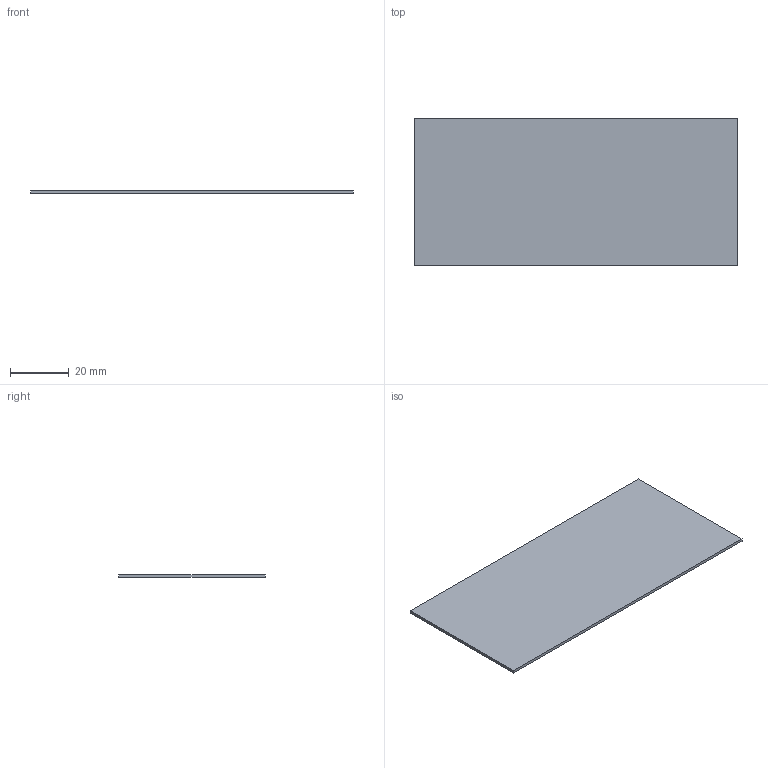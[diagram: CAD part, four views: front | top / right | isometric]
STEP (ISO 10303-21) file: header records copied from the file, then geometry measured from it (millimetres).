
FILE_DESCRIPTION (( 'STEP AP214' ), '1' );
FILE_NAME ('Ej03-v01.STEP', '2012-02-01T15:05:14', ( '' ), ( '' ), 'SwSTEP 2.0', 'SolidWorks 2011', '' );
FILE_SCHEMA (( 'AUTOMOTIVE_DESIGN' ));
Length unit declared in the file: millimetre
Products named in the file (1): Ej03-v01
Bounding box: 110 x 50 x 1 mm (x, y, z)
Volume: 5500 mm3; surface area: 11320 mm2
Topology: 1 solids, 1 shells, 6 faces, 12 edges, 8 vertices
Faces by surface type: plane 6
Entity records: 190 total; most frequent: CARTESIAN_POINT 27, DIRECTION 26, ORIENTED_EDGE 24, LINE 12, VECTOR 12, EDGE_CURVE 12, VERTEX_POINT 8, AXIS2_PLACEMENT_3D 7
